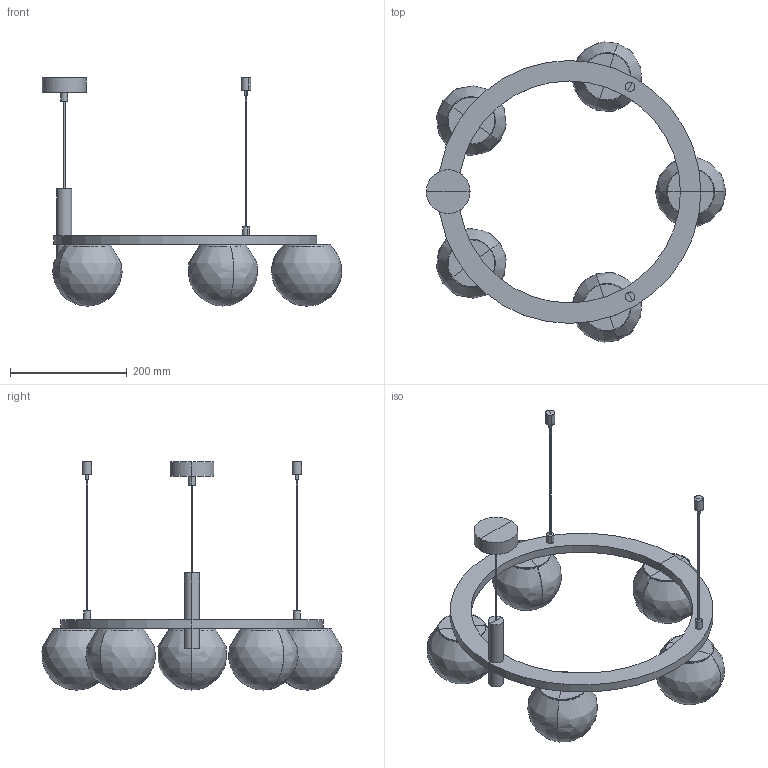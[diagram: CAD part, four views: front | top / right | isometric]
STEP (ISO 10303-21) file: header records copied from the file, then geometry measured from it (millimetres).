
FILE_DESCRIPTION(/* description */ (''),/* implementation_level */ '2;1');
FILE_NAME(/* name */ 'Ceto Chandelier',/* time_stamp */ '2026-06-24T10:20:59+08:00',/* author */ (''),/* organization */ (''),/* preprocessor_version */ 'ST-DEVELOPER v19.2',/* originating_system */ 'Rhino 8.25',/* authorisation */ '');
FILE_SCHEMA (('CONFIG_CONTROL_DESIGN'));
Length unit declared in the file: millimetre
Products named in the file (1): Document
Bounding box: 512.49 x 513.75 x 390.72 mm (x, y, z)
Volume: 1348354.1 mm3; surface area: 609019.5 mm2
Topology: 24 solids, 24 shells, 160 faces, 294 edges, 160 vertices
Faces by surface type: plane 80, cylinder 60, bspline 20
Entity records: 4338 total; most frequent: CARTESIAN_POINT 1500, ORIENTED_EDGE 548, DIRECTION 424, AXIS2_PLACEMENT_3D 282, EDGE_CURVE 274, ADVANCED_FACE 160, FACE_OUTER_BOUND 160, EDGE_LOOP 160
